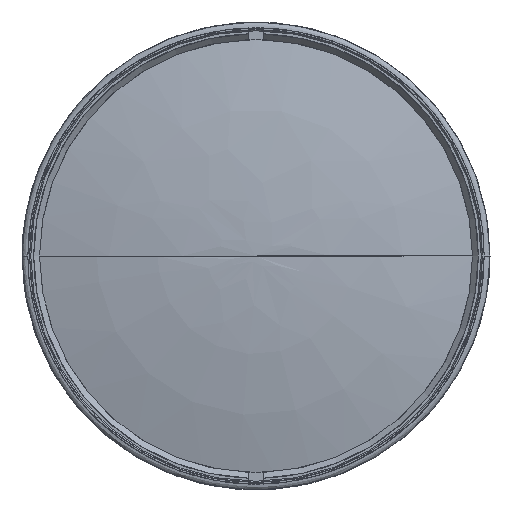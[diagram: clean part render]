
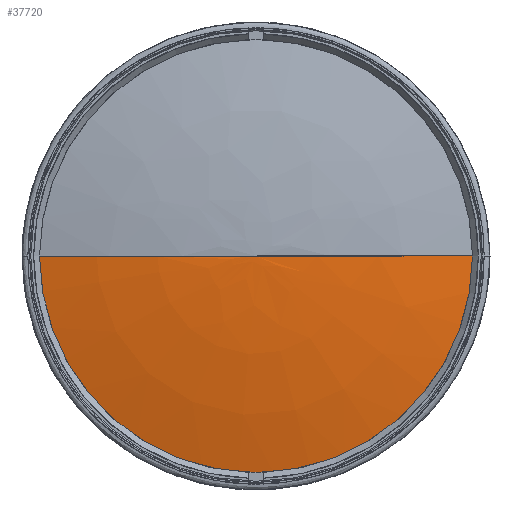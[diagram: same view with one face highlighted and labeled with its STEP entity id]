
A CAD part, left-side view. The second image highlights one B-rep face of the part: STEP entity #37720.
In plain terms, the highlighted face is a revolution surface.
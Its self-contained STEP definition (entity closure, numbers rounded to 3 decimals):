
#37720 = ADVANCED_FACE('',(#37721),#37739,.T.);
#37721 = FACE_BOUND('',#37722,.T.);
#37722 = EDGE_LOOP('',(#37723,#37753,#37772,#37791));
#37723 = ORIENTED_EDGE('',*,*,#37724,.F.);
#37724 = EDGE_CURVE('',#37725,#37727,#37729,.T.);
#37725 = VERTEX_POINT('',#37726);
#37726 = CARTESIAN_POINT('',(-165.23,0.,
    0.));
#37727 = VERTEX_POINT('',#37728);
#37728 = CARTESIAN_POINT('',(-160.802,37.5,
    0.));
#37729 = SURFACE_CURVE('',#37730,(#37738),.PCURVE_S1.);
#37730 = ( BOUNDED_CURVE() B_SPLINE_CURVE(6,(#37731,#37732,#37733,#37734
    ,#37735,#37736,#37737),.UNSPECIFIED.,.F.,.F.) 
B_SPLINE_CURVE_WITH_KNOTS((7,7),(0.,1.),.PIECEWISE_BEZIER_KNOTS.) CURVE(
) GEOMETRIC_REPRESENTATION_ITEM() RATIONAL_B_SPLINE_CURVE((
    1.001,1.,1.,1.,
1.,1.,1.001)) REPRESENTATION_ITEM('') 
  );
#37731 = CARTESIAN_POINT('',(-165.23,0.,
    0.));
#37732 = CARTESIAN_POINT('',(-165.23,6.311,
    0.));
#37733 = CARTESIAN_POINT('',(-164.933,12.618,
    0.));
#37734 = CARTESIAN_POINT('',(-164.34,18.906,
    0.));
#37735 = CARTESIAN_POINT('',(-163.452,25.16,
    0.));
#37736 = CARTESIAN_POINT('',(-162.272,31.363,
    0.));
#37737 = CARTESIAN_POINT('',(-160.802,37.5,
    0.));
#37738 = PCURVE('',#37739,#37748);
#37739 = SURFACE_OF_REVOLUTION('',#37740,#37745);
#37740 = CIRCLE('',#37741,161.);
#37741 = AXIS2_PLACEMENT_3D('',#37742,#37743,#37744);
#37742 = CARTESIAN_POINT('',(-4.23,0.,0.));
#37743 = DIRECTION('',(-0.,0.,1.));
#37744 = DIRECTION('',(1.,0.,0.));
#37745 = AXIS1_PLACEMENT('',#37746,#37747);
#37746 = CARTESIAN_POINT('',(-4.23,0.,0.));
#37747 = DIRECTION('',(1.,0.,0.));
#37748 = DEFINITIONAL_REPRESENTATION('',(#37749),#37752);
#37749 = B_SPLINE_CURVE_WITH_KNOTS('',1,(#37750,#37751),.UNSPECIFIED.,
  .F.,.F.,(2,2),(0.,1.),.PIECEWISE_BEZIER_KNOTS.);
#37750 = CARTESIAN_POINT('',(6.283,3.142));
#37751 = CARTESIAN_POINT('',(6.283,2.907));
#37752 = ( GEOMETRIC_REPRESENTATION_CONTEXT(2) 
PARAMETRIC_REPRESENTATION_CONTEXT() REPRESENTATION_CONTEXT('',''
  ) );
#37753 = ORIENTED_EDGE('',*,*,#37754,.F.);
#37754 = EDGE_CURVE('',#37755,#37725,#37757,.T.);
#37755 = VERTEX_POINT('',#37756);
#37756 = CARTESIAN_POINT('',(-165.23,0.,
    0.));
#37757 = SURFACE_CURVE('',#37758,(#37766),.PCURVE_S1.);
#37758 = ( BOUNDED_CURVE() B_SPLINE_CURVE(6,(#37759,#37760,#37761,#37762
    ,#37763,#37764,#37765),.UNSPECIFIED.,.F.,.F.) 
B_SPLINE_CURVE_WITH_KNOTS((7,7),(0.,1.),.PIECEWISE_BEZIER_KNOTS.) CURVE(
) GEOMETRIC_REPRESENTATION_ITEM() RATIONAL_B_SPLINE_CURVE((
    1.133,1.036,0.992,0.976,
0.992,1.036,1.133)) REPRESENTATION_ITEM('') 
  );
#37759 = CARTESIAN_POINT('',(-165.23,0.,
    0.));
#37760 = CARTESIAN_POINT('',(-165.23,0.,
    0.));
#37761 = CARTESIAN_POINT('',(-165.23,0.,
    0.));
#37762 = CARTESIAN_POINT('',(-165.23,0.,
    0.));
#37763 = CARTESIAN_POINT('',(-165.23,0.,
    0.));
#37764 = CARTESIAN_POINT('',(-165.23,0.,
    0.));
#37765 = CARTESIAN_POINT('',(-165.23,0.,
    0.));
#37766 = PCURVE('',#37739,#37767);
#37767 = DEFINITIONAL_REPRESENTATION('',(#37768),#37771);
#37768 = B_SPLINE_CURVE_WITH_KNOTS('',1,(#37769,#37770),.UNSPECIFIED.,
  .F.,.F.,(2,2),(0.,1.),.PIECEWISE_BEZIER_KNOTS.);
#37769 = CARTESIAN_POINT('',(3.142,3.142));
#37770 = CARTESIAN_POINT('',(6.283,3.142));
#37771 = ( GEOMETRIC_REPRESENTATION_CONTEXT(2) 
PARAMETRIC_REPRESENTATION_CONTEXT() REPRESENTATION_CONTEXT('',''
  ) );
#37772 = ORIENTED_EDGE('',*,*,#37773,.F.);
#37773 = EDGE_CURVE('',#37774,#37755,#37776,.T.);
#37774 = VERTEX_POINT('',#37775);
#37775 = CARTESIAN_POINT('',(-160.802,-37.5,
    0.));
#37776 = SURFACE_CURVE('',#37777,(#37785),.PCURVE_S1.);
#37777 = ( BOUNDED_CURVE() B_SPLINE_CURVE(6,(#37778,#37779,#37780,#37781
    ,#37782,#37783,#37784),.UNSPECIFIED.,.F.,.F.) 
B_SPLINE_CURVE_WITH_KNOTS((7,7),(0.,1.),.PIECEWISE_BEZIER_KNOTS.) CURVE(
) GEOMETRIC_REPRESENTATION_ITEM() RATIONAL_B_SPLINE_CURVE((
    1.001,1.,1.,1.,
1.,1.,1.001)) REPRESENTATION_ITEM('') 
  );
#37778 = CARTESIAN_POINT('',(-160.802,-37.5,
    0.));
#37779 = CARTESIAN_POINT('',(-162.272,-31.363,
    0.));
#37780 = CARTESIAN_POINT('',(-163.452,-25.16,
    0.));
#37781 = CARTESIAN_POINT('',(-164.34,-18.906,
    0.));
#37782 = CARTESIAN_POINT('',(-164.933,-12.618,
    0.));
#37783 = CARTESIAN_POINT('',(-165.23,-6.311,
    0.));
#37784 = CARTESIAN_POINT('',(-165.23,0.,
    0.));
#37785 = PCURVE('',#37739,#37786);
#37786 = DEFINITIONAL_REPRESENTATION('',(#37787),#37790);
#37787 = B_SPLINE_CURVE_WITH_KNOTS('',1,(#37788,#37789),.UNSPECIFIED.,
  .F.,.F.,(2,2),(0.,1.),.PIECEWISE_BEZIER_KNOTS.);
#37788 = CARTESIAN_POINT('',(3.142,2.907));
#37789 = CARTESIAN_POINT('',(3.142,3.142));
#37790 = ( GEOMETRIC_REPRESENTATION_CONTEXT(2) 
PARAMETRIC_REPRESENTATION_CONTEXT() REPRESENTATION_CONTEXT('',''
  ) );
#37791 = ORIENTED_EDGE('',*,*,#37792,.F.);
#37792 = EDGE_CURVE('',#37727,#37774,#37793,.T.);
#37793 = SURFACE_CURVE('',#37794,(#37805),.PCURVE_S1.);
#37794 = B_SPLINE_CURVE_WITH_KNOTS('',9,(#37795,#37796,#37797,#37798,
    #37799,#37800,#37801,#37802,#37803,#37804),.UNSPECIFIED.,.F.,.F.,(10
    ,10),(0.,1.),.PIECEWISE_BEZIER_KNOTS.);
#37795 = CARTESIAN_POINT('',(-160.802,37.5,
    0.));
#37796 = CARTESIAN_POINT('',(-160.802,37.5,
    -13.09));
#37797 = CARTESIAN_POINT('',(-160.802,32.36,
    -26.18));
#37798 = CARTESIAN_POINT('',(-160.802,22.079,
    -36.962));
#37799 = CARTESIAN_POINT('',(-160.802,7.866,
    -43.134));
#37800 = CARTESIAN_POINT('',(-160.802,-7.866,
    -43.134));
#37801 = CARTESIAN_POINT('',(-160.802,-22.079,
    -36.962));
#37802 = CARTESIAN_POINT('',(-160.802,-32.36,
    -26.18));
#37803 = CARTESIAN_POINT('',(-160.802,-37.5,
    -13.09));
#37804 = CARTESIAN_POINT('',(-160.802,-37.5,
    0.));
#37805 = PCURVE('',#37739,#37806);
#37806 = DEFINITIONAL_REPRESENTATION('',(#37807),#37810);
#37807 = B_SPLINE_CURVE_WITH_KNOTS('',1,(#37808,#37809),.UNSPECIFIED.,
  .F.,.F.,(2,2),(0.,1.),.PIECEWISE_BEZIER_KNOTS.);
#37808 = CARTESIAN_POINT('',(6.283,2.907));
#37809 = CARTESIAN_POINT('',(3.142,2.907));
#37810 = ( GEOMETRIC_REPRESENTATION_CONTEXT(2) 
PARAMETRIC_REPRESENTATION_CONTEXT() REPRESENTATION_CONTEXT('',''
  ) );
